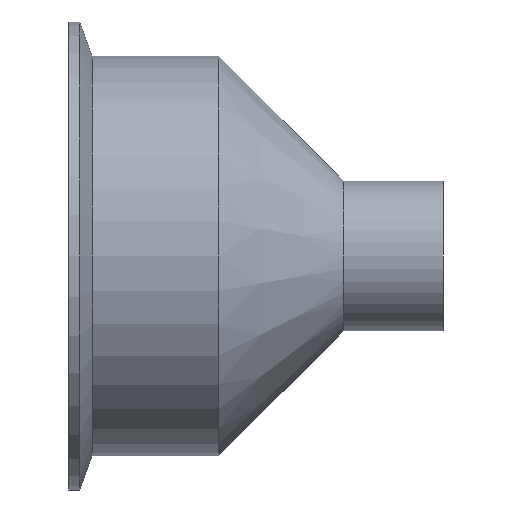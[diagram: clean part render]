
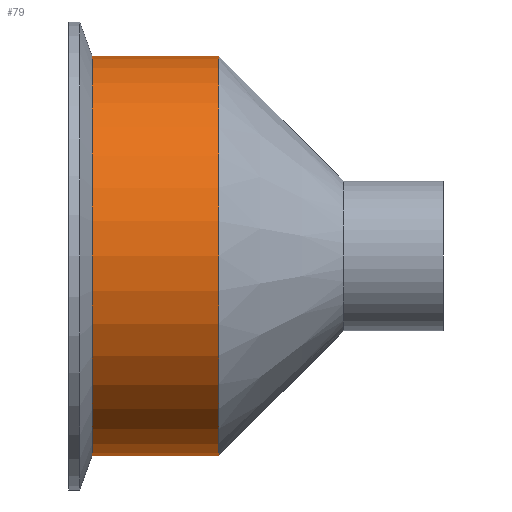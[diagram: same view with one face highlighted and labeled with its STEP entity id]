
A CAD part, front view. The second image highlights one B-rep face of the part: STEP entity #79.
In plain terms, the highlighted cylindrical face has radius 50.8 mm (diameter 101.6 mm), a partial arc.
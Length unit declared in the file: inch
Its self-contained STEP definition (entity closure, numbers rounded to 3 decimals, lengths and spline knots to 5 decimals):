
#6 = ORIENTED_EDGE ( 'NONE', *, *, #248, .F. ) ;
#8 = VERTEX_POINT ( 'NONE', #311 ) ;
#46 = EDGE_CURVE ( 'NONE', #8, #129, #365, .T. ) ;
#64 = VERTEX_POINT ( 'NONE', #133 ) ;
#72 = AXIS2_PLACEMENT_3D ( 'NONE', #163, #371, #574 ) ;
#75 = CARTESIAN_POINT ( 'NONE',  ( -2.51719, 0., 0. ) ) ;
#79 = ADVANCED_FACE ( 'NONE', ( #455 ), #661, .T. ) ;
#129 = VERTEX_POINT ( 'NONE', #271 ) ;
#133 = CARTESIAN_POINT ( 'NONE',  ( 0.23611, 0., 2. ) ) ;
#137 = CARTESIAN_POINT ( 'NONE',  ( -2.51719, 0., -2. ) ) ;
#163 = CARTESIAN_POINT ( 'NONE',  ( 0.23611, 0., 0. ) ) ;
#184 = ORIENTED_EDGE ( 'NONE', *, *, #46, .F. ) ;
#188 = AXIS2_PLACEMENT_3D ( 'NONE', #75, #249, #462 ) ;
#198 = CARTESIAN_POINT ( 'NONE',  ( 1.5, 0., 2. ) ) ;
#211 = DIRECTION ( 'NONE',  ( 0., 0., 1. ) ) ;
#248 = EDGE_CURVE ( 'NONE', #129, #64, #450, .T. ) ;
#249 = DIRECTION ( 'NONE',  ( -1., 0., 0. ) ) ;
#271 = CARTESIAN_POINT ( 'NONE',  ( 0.23611, 0., -2. ) ) ;
#280 = ORIENTED_EDGE ( 'NONE', *, *, #444, .T. ) ;
#309 = DIRECTION ( 'NONE',  ( -1., 0., 0. ) ) ;
#311 = CARTESIAN_POINT ( 'NONE',  ( 1.5, 0., -2. ) ) ;
#328 = AXIS2_PLACEMENT_3D ( 'NONE', #680, #604, #211 ) ;
#337 = DIRECTION ( 'NONE',  ( -1., 0., 0. ) ) ;
#340 = LINE ( 'NONE', #386, #573 ) ;
#365 = LINE ( 'NONE', #137, #398 ) ;
#368 = ORIENTED_EDGE ( 'NONE', *, *, #648, .T. ) ;
#371 = DIRECTION ( 'NONE',  ( -1., 0., 0. ) ) ;
#386 = CARTESIAN_POINT ( 'NONE',  ( -2.51719, 0., 2. ) ) ;
#398 = VECTOR ( 'NONE', #309, 39.37008 ) ;
#444 = EDGE_CURVE ( 'NONE', #8, #571, #572, .T. ) ;
#450 = CIRCLE ( 'NONE', #72, 2. ) ;
#455 = FACE_OUTER_BOUND ( 'NONE', #652, .T. ) ;
#462 = DIRECTION ( 'NONE',  ( 0., 0., 1. ) ) ;
#571 = VERTEX_POINT ( 'NONE', #198 ) ;
#572 = CIRCLE ( 'NONE', #328, 2. ) ;
#573 = VECTOR ( 'NONE', #337, 39.37008 ) ;
#574 = DIRECTION ( 'NONE',  ( 0., 0., 1. ) ) ;
#604 = DIRECTION ( 'NONE',  ( -1., 0., 0. ) ) ;
#648 = EDGE_CURVE ( 'NONE', #571, #64, #340, .T. ) ;
#652 = EDGE_LOOP ( 'NONE', ( #184, #280, #368, #6 ) ) ;
#661 = CYLINDRICAL_SURFACE ( 'NONE', #188, 2. ) ;
#680 = CARTESIAN_POINT ( 'NONE',  ( 1.5, 0., 0. ) ) ;
